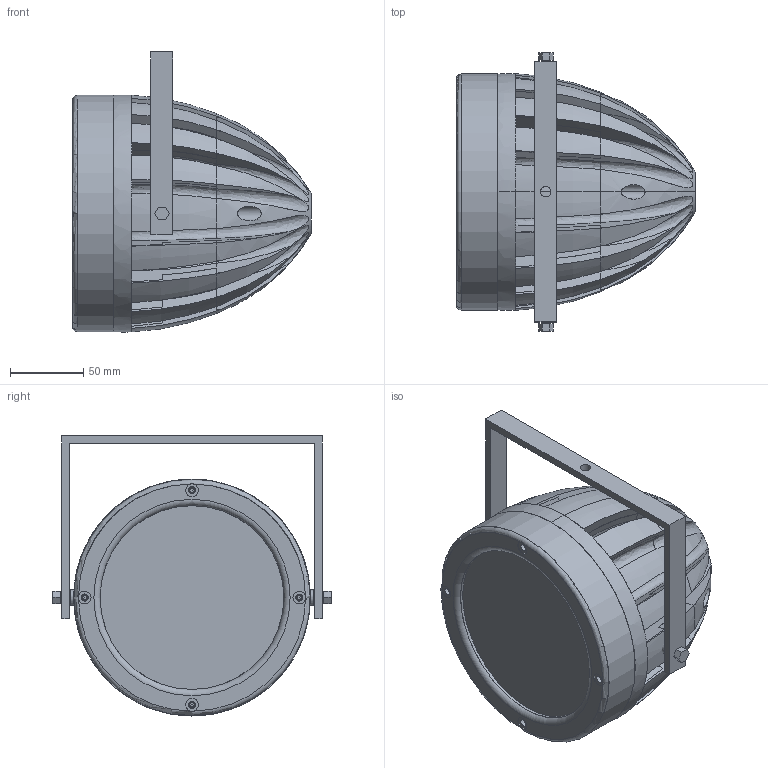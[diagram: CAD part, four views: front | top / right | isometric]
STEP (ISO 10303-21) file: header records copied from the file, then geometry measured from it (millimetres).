
FILE_DESCRIPTION(/* description */ (''),/* implementation_level */ '2;1');
FILE_NAME(/* name */ 'C:/Users/elena/Desktop/Equinox.step',/* time_stamp */ '2020-06-18T16:11:27+02:00',/* author */ (''),/* organization */ (''),/* preprocessor_version */ 'ST-DEVELOPER v18.1',/* originating_system */ 'Autodesk Translation Framework v9.3.0.1241',/* authorisation */ '');
FILE_SCHEMA (('AUTOMOTIVE_DESIGN { 1 0 10303 214 3 1 1 }'));
Products named in the file (2): (Unsaved); Equinox
Assembly tree (1 placements, depth 2):
  (Unsaved)
    Equinox
Bounding box: 163.29 x 190.18 x 191.46 mm (x, y, z)
Volume: 1794826.5 mm3; surface area: 268019.4 mm2
Topology: 8 solids, 15 shells, 1388 faces, 3394 edges, 2056 vertices
Faces by surface type: cone 792, cylinder 244, bspline 232, plane 118, torus 2
Full cylindrical faces by diameter (mm): 3.069 x2, 3.07 x44, 3.071 x56, 3.072 x70, 4 x2, 5 x4, 5.052 x4, 7.132 x1, 8.69 x4, 10 x2, 10.835 x2, 125.594 x1, 127.615 x1, 133.678 x1, 137.921 x2, 161.666 x1
Entity records: 60911 total; most frequent: CARTESIAN_POINT 28706, ORIENTED_EDGE 6776, DIRECTION 6766, EDGE_CURVE 3394, AXIS2_PLACEMENT_3D 2704, VERTEX_POINT 2056, CIRCLE 1486, EDGE_LOOP 1438
